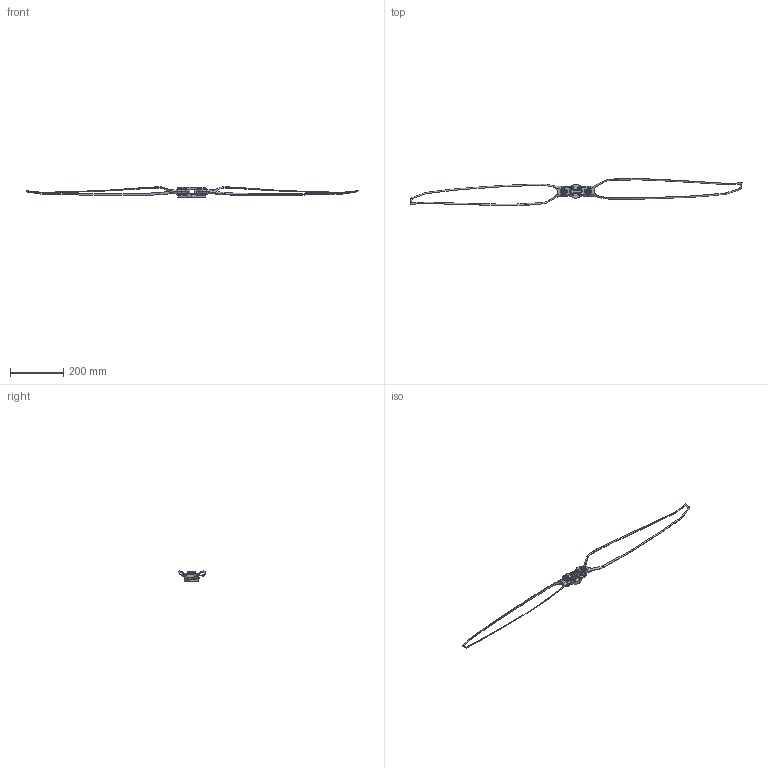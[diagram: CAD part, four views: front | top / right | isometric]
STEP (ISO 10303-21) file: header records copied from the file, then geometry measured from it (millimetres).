
FILE_DESCRIPTION (( 'STEP AP203' ), '1' );
FILE_NAME ('PFZ49蔑標芢薯蚾饜.STEP', '2024-10-30T00:45:47', ( '' ), ( '' ), 'SwSTEP 2.0', 'SolidWorks 2022', '' );
FILE_SCHEMA (( 'CONFIG_CONTROL_DESIGN' ));
Length unit declared in the file: millimetre
Products named in the file (7): PFZ49桨夹推力装配; PFZ49桨夹下板.stp; Y0201000208-40寸桨夹-定位轴-X1-A.step; 30x10x1.5垫片.step; PFZ49开孔桨叶.stp; C0206000022-XA40.4寸桨夹氟胶套.step; PFZ49桨夹上板.stp
Assembly tree (14 placements, depth 2):
  PFZ49桨夹推力装配
    PFZ49桨夹下板.stp
    PFZ49桨夹上板.stp
    30x10x1.5垫片.step  x4
    C0206000022-XA40.4寸桨夹氟胶套.step  x4
    Y0201000208-40寸桨夹-定位轴-X1-A.step  x2
    PFZ49开孔桨叶.stp  x2
Bounding box: 1243.45 x 101.45 x 39.42 mm (x, y, z)
Volume: 132651.7 mm3; surface area: 81958.3 mm2
Topology: 14 solids, 14 shells, 1053 faces, 2780 edges, 1768 vertices
Faces by surface type: cylinder 383, plane 327, cone 161, bspline 134, torus 44, sphere 4
Entity records: 37518 total; most frequent: CARTESIAN_POINT 17917, ORIENTED_EDGE 4002, DIRECTION 3790, EDGE_CURVE 2001, AXIS2_PLACEMENT_3D 1424, VERTEX_POINT 1262, LINE 942, VECTOR 942
